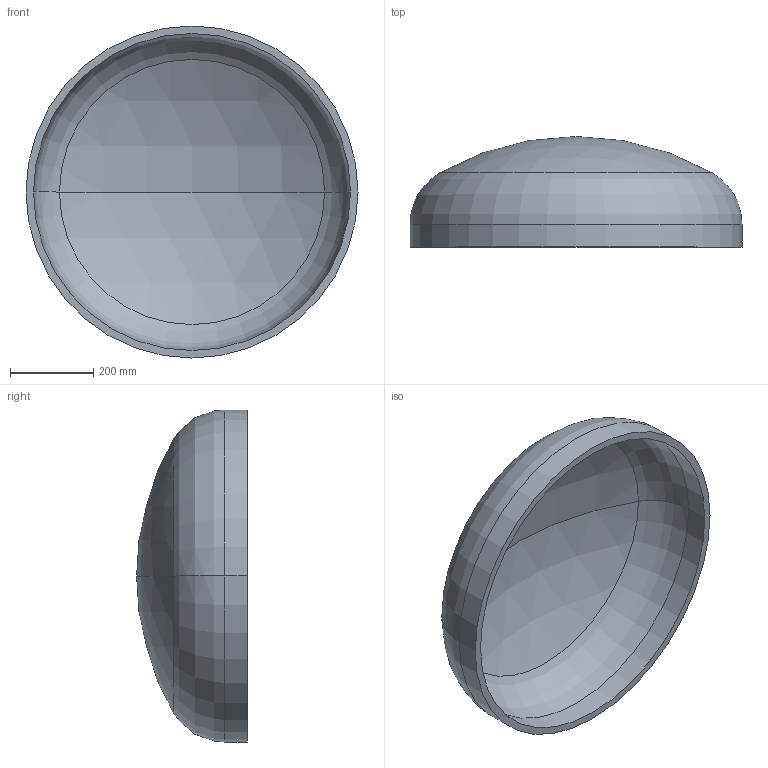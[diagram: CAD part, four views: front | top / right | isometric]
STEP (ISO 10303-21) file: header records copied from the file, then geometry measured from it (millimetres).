
FILE_DESCRIPTION (( 'STEP AP203' ), '1' );
FILE_NAME ('DIN 28013 Korbbogenform_-_Boden DIN 28013 - 800 x 55 - I - s=18.step', '2016-07-01T08:13:30', ( '' ), ( '' ), 'SwSTEP 2.0', 'SolidWorks 2013', '' );
FILE_SCHEMA (( 'CONFIG_CONTROL_DESIGN' ));
Length unit declared in the file: millimetre
Products named in the file (1): DIN 28013 Korbbogenform_-_Boden DIN 28013 - 800 x 55 - I - s=18
Bounding box: 800 x 266.71 x 800 mm (x, y, z)
Volume: 14633526.2 mm3; surface area: 1670846.5 mm2
Topology: 1 solids, 1 shells, 13 faces, 24 edges, 14 vertices
Faces by surface type: torus 4, cylinder 4, sphere 4, plane 1
Entity records: 407 total; most frequent: DIRECTION 72, CARTESIAN_POINT 52, ORIENTED_EDGE 48, AXIS2_PLACEMENT_3D 34, EDGE_CURVE 24, CIRCLE 20, VERTEX_POINT 14, EDGE_LOOP 14
